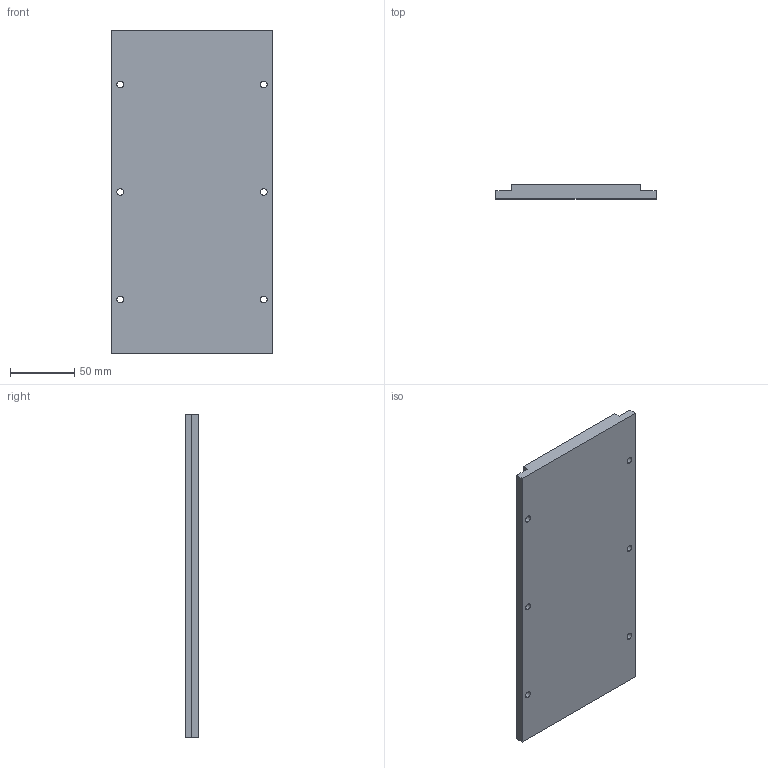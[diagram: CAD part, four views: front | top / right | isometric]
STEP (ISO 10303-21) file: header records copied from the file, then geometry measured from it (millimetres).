
FILE_DESCRIPTION (( 'STEP AP214' ), '1' );
FILE_NAME ('TLM-125-L252.STEP', '2022-05-12T08:07:48', ( 'Microsoft' ), ( 'Microsoft' ), 'SwSTEP 2.0', 'SolidWorks 2016', '' );
FILE_SCHEMA (( 'AUTOMOTIVE_DESIGN' ));
Length unit declared in the file: millimetre
Products named in the file (1): TLM-125-L252
Bounding box: 125 x 10.8 x 252 mm (x, y, z)
Volume: 310118.6 mm3; surface area: 71388.9 mm2
Topology: 1 solids, 1 shells, 40 faces, 96 edges, 64 vertices
Faces by surface type: cylinder 24, plane 16
Entity records: 1246 total; most frequent: DIRECTION 226, CARTESIAN_POINT 201, ORIENTED_EDGE 192, EDGE_CURVE 96, AXIS2_PLACEMENT_3D 89, VERTEX_POINT 64, EDGE_LOOP 58, CIRCLE 48
